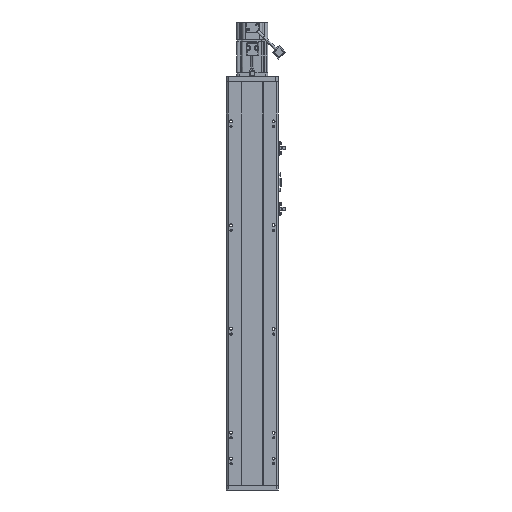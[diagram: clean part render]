
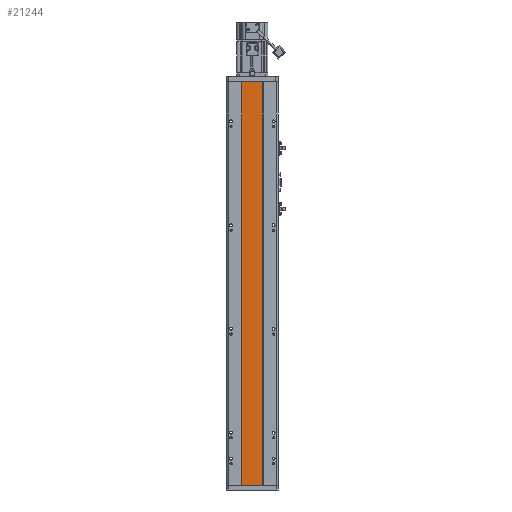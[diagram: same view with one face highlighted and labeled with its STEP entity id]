
A CAD part, front view. The second image highlights one B-rep face of the part: STEP entity #21244.
In plain terms, the highlighted planar face has unit normal (0, -1, 0).
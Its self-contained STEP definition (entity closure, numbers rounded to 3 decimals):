
#2876 = VECTOR ( 'NONE', #19743, 1000. ) ;
#4386 = CARTESIAN_POINT ( 'NONE',  ( 20., 0., 0. ) ) ;
#9650 = VECTOR ( 'NONE', #72763, 1000. ) ;
#11943 = DIRECTION ( 'NONE',  ( -1., 0., 0. ) ) ;
#19743 = DIRECTION ( 'NONE',  ( 0., 0., 1. ) ) ;
#20501 = CARTESIAN_POINT ( 'NONE',  ( 20., 0., -778.5 ) ) ;
#21244 = ADVANCED_FACE ( 'NONE', ( #94411 ), #49374, .F. ) ;
#22843 = LINE ( 'NONE', #27278, #2876 ) ;
#26910 = CARTESIAN_POINT ( 'NONE',  ( 20., 0., -778.5 ) ) ;
#27278 = CARTESIAN_POINT ( 'NONE',  ( -20., 0., -778.5 ) ) ;
#27417 = ORIENTED_EDGE ( 'NONE', *, *, #56760, .T. ) ;
#29693 = LINE ( 'NONE', #20501, #9650 ) ;
#30128 = ORIENTED_EDGE ( 'NONE', *, *, #57454, .F. ) ;
#30490 = ORIENTED_EDGE ( 'NONE', *, *, #58580, .F. ) ;
#33305 = ORIENTED_EDGE ( 'NONE', *, *, #55225, .T. ) ;
#34487 = DIRECTION ( 'NONE',  ( -1., 0., 0. ) ) ;
#34999 = VECTOR ( 'NONE', #69368, 1000. ) ;
#38129 = CARTESIAN_POINT ( 'NONE',  ( 20., 0., 0. ) ) ;
#41939 = CARTESIAN_POINT ( 'NONE',  ( -20., 0., 0. ) ) ;
#49374 = PLANE ( 'NONE',  #65305 ) ;
#55225 = EDGE_CURVE ( 'NONE', #95172, #90366, #94073, .T. ) ;
#56760 = EDGE_CURVE ( 'NONE', #90366, #92909, #69749, .T. ) ;
#57012 = CARTESIAN_POINT ( 'NONE',  ( -20., 0., -778.5 ) ) ;
#57454 = EDGE_CURVE ( 'NONE', #94191, #92909, #22843, .T. ) ;
#58580 = EDGE_CURVE ( 'NONE', #95172, #94191, #29693, .T. ) ;
#61374 = CARTESIAN_POINT ( 'NONE',  ( 20., 0., -778.5 ) ) ;
#65305 = AXIS2_PLACEMENT_3D ( 'NONE', #26910, #79063, #34487 ) ;
#67213 = EDGE_LOOP ( 'NONE', ( #27417, #30128, #30490, #33305 ) ) ;
#69368 = DIRECTION ( 'NONE',  ( 0., 0., 1. ) ) ;
#69749 = LINE ( 'NONE', #4386, #84672 ) ;
#72763 = DIRECTION ( 'NONE',  ( -1., 0., 0. ) ) ;
#79063 = DIRECTION ( 'NONE',  ( 0., 1., 0. ) ) ;
#84672 = VECTOR ( 'NONE', #11943, 1000. ) ;
#90366 = VERTEX_POINT ( 'NONE', #38129 ) ;
#91217 = CARTESIAN_POINT ( 'NONE',  ( 20., 0., -778.5 ) ) ;
#92909 = VERTEX_POINT ( 'NONE', #41939 ) ;
#94073 = LINE ( 'NONE', #91217, #34999 ) ;
#94191 = VERTEX_POINT ( 'NONE', #57012 ) ;
#94411 = FACE_OUTER_BOUND ( 'NONE', #67213, .T. ) ;
#95172 = VERTEX_POINT ( 'NONE', #61374 ) ;
